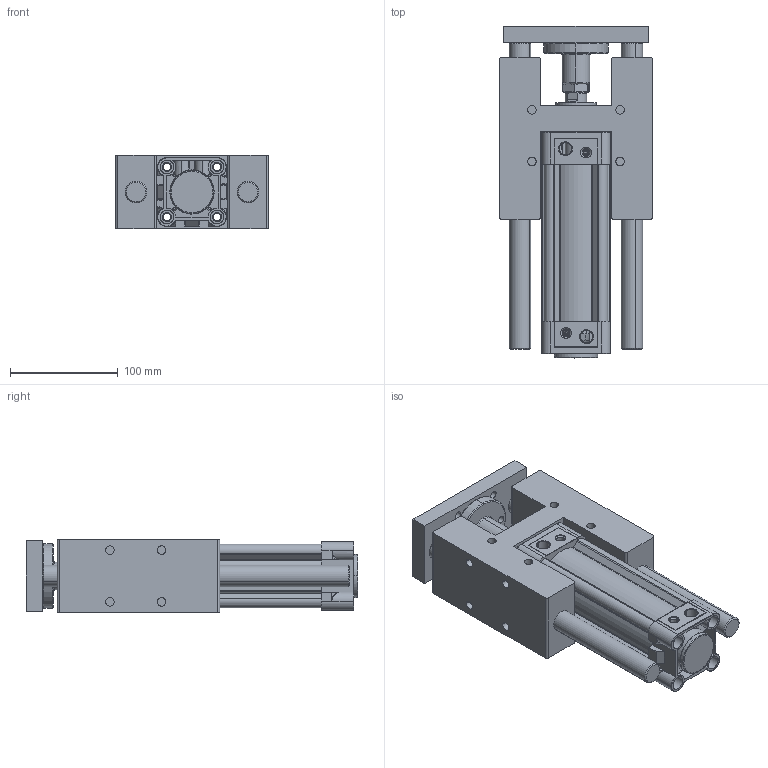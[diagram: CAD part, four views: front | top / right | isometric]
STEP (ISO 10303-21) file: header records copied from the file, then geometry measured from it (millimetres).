
FILE_DESCRIPTION (( 'STEP AP203' ), '1' );
FILE_NAME ('KDNT50X100H-YATAK.STEP', '2016-05-18T10:19:38', ( 'user' ), ( '' ), 'SwSTEP 2.0', 'SolidWorks 2013', '' );
FILE_SCHEMA (( 'CONFIG_CONTROL_DESIGN' ));
Length unit declared in the file: millimetre
Products named in the file (11): ORTA PÝSTON 50; 烰 KAPAK  50; Piston Mili 50x100; DNC-H-YATAK 50; SOMUN 50; DNC-H-YATAK M尳 50X100; KDNT50X100H-YATAK; DNC-H-YATAK TABLA 50; DNC-H-YATAK MÝL YATAÐI 50; ARKA KAPAK 50; KDNT 50X100 BORU
Assembly tree (11 placements, depth 2):
  KDNT50X100H-YATAK
    DNC-H-YATAK 50
    DNC-H-YATAK M尳 50X100  x2
    DNC-H-YATAK TABLA 50
    DNC-H-YATAK MÝL YATAÐI 50
    ARKA KAPAK 50
    KDNT 50X100 BORU
    ORTA PÝSTON 50
    烰 KAPAK  50
    Piston Mili 50x100
    SOMUN 50
Bounding box: 142 x 308.4 x 68.5 mm (x, y, z)
Volume: 1464504.1 mm3; surface area: 383563.5 mm2
Topology: 18 solids, 18 shells, 973 faces, 2485 edges, 1637 vertices
Faces by surface type: cylinder 496, plane 351, cone 80, bspline 34, torus 12
Entity records: 39109 total; most frequent: CARTESIAN_POINT 15107, ORIENTED_EDGE 4934, DIRECTION 4438, EDGE_CURVE 2467, AXIS2_PLACEMENT_3D 1696, VERTEX_POINT 1629, EDGE_LOOP 1152, VECTOR 1046
